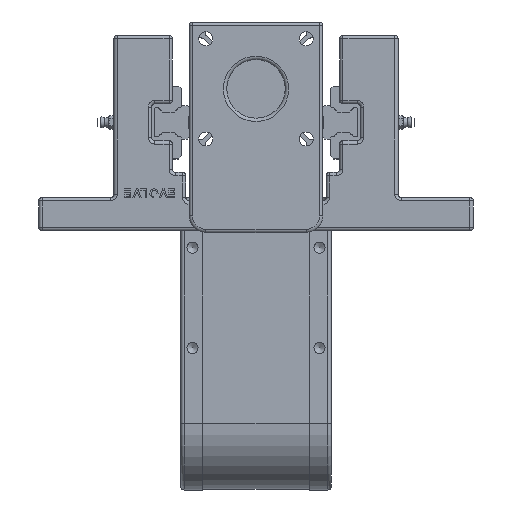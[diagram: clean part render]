
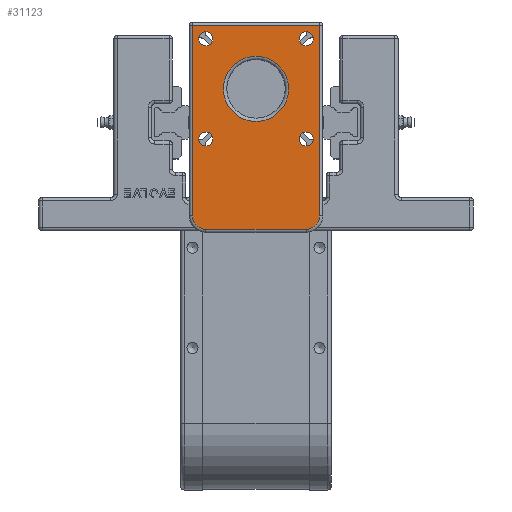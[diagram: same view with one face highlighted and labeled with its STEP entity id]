
A CAD part, front view. The second image highlights one B-rep face of the part: STEP entity #31123.
In plain terms, the highlighted planar face has unit normal (0, -1, 0) as drawn and (0, 0, 1) by its records, which use the part's own axes.
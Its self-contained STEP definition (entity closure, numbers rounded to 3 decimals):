
#279=FACE_BOUND('',#4473,.T.);
#280=FACE_BOUND('',#4474,.T.);
#281=FACE_BOUND('',#4475,.T.);
#282=FACE_BOUND('',#4476,.T.);
#283=FACE_BOUND('',#4477,.T.);
#2559=FACE_OUTER_BOUND('',#4472,.T.);
#4472=EDGE_LOOP('',(#22229,#22230,#22231,#22232,#22233,#22234));
#4473=EDGE_LOOP('',(#22235));
#4474=EDGE_LOOP('',(#22236));
#4475=EDGE_LOOP('',(#22237));
#4476=EDGE_LOOP('',(#22238));
#4477=EDGE_LOOP('',(#22239));
#6827=LINE('',#47196,#9745);
#6828=LINE('',#47198,#9746);
#6829=LINE('',#47200,#9747);
#6830=LINE('',#47203,#9748);
#9745=VECTOR('',#37643,10.);
#9746=VECTOR('',#37644,10.);
#9747=VECTOR('',#37645,10.);
#9748=VECTOR('',#37648,10.);
#12415=CIRCLE('',#33452,19.5);
#12418=CIRCLE('',#33456,8.);
#12419=CIRCLE('',#33457,8.);
#12420=CIRCLE('',#33458,4.188);
#12421=CIRCLE('',#33459,4.188);
#12422=CIRCLE('',#33460,4.188);
#12423=CIRCLE('',#33461,4.188);
#14041=VERTEX_POINT('',#47186);
#14043=VERTEX_POINT('',#47192);
#14044=VERTEX_POINT('',#47193);
#14045=VERTEX_POINT('',#47195);
#14046=VERTEX_POINT('',#47197);
#14047=VERTEX_POINT('',#47199);
#14048=VERTEX_POINT('',#47201);
#14049=VERTEX_POINT('',#47204);
#14050=VERTEX_POINT('',#47206);
#14051=VERTEX_POINT('',#47208);
#14052=VERTEX_POINT('',#47210);
#17153=EDGE_CURVE('',#14041,#14041,#12415,.T.);
#17156=EDGE_CURVE('',#14043,#14044,#12418,.T.);
#17157=EDGE_CURVE('',#14045,#14043,#6827,.T.);
#17158=EDGE_CURVE('',#14046,#14045,#6828,.T.);
#17159=EDGE_CURVE('',#14047,#14046,#6829,.T.);
#17160=EDGE_CURVE('',#14048,#14047,#12419,.T.);
#17161=EDGE_CURVE('',#14044,#14048,#6830,.T.);
#17162=EDGE_CURVE('',#14049,#14049,#12420,.T.);
#17163=EDGE_CURVE('',#14050,#14050,#12421,.T.);
#17164=EDGE_CURVE('',#14051,#14051,#12422,.T.);
#17165=EDGE_CURVE('',#14052,#14052,#12423,.T.);
#22229=ORIENTED_EDGE('',*,*,#17156,.F.);
#22230=ORIENTED_EDGE('',*,*,#17157,.F.);
#22231=ORIENTED_EDGE('',*,*,#17158,.F.);
#22232=ORIENTED_EDGE('',*,*,#17159,.F.);
#22233=ORIENTED_EDGE('',*,*,#17160,.F.);
#22234=ORIENTED_EDGE('',*,*,#17161,.F.);
#22235=ORIENTED_EDGE('',*,*,#17162,.T.);
#22236=ORIENTED_EDGE('',*,*,#17163,.T.);
#22237=ORIENTED_EDGE('',*,*,#17164,.T.);
#22238=ORIENTED_EDGE('',*,*,#17165,.T.);
#22239=ORIENTED_EDGE('',*,*,#17153,.F.);
#29895=PLANE('',#33455);
#31123=ADVANCED_FACE('',(#2559,#279,#280,#281,#282,#283),#29895,.T.);
#33452=AXIS2_PLACEMENT_3D('',#47187,#37633,#37634);
#33455=AXIS2_PLACEMENT_3D('',#47191,#37639,#37640);
#33456=AXIS2_PLACEMENT_3D('',#47194,#37641,#37642);
#33457=AXIS2_PLACEMENT_3D('',#47202,#37646,#37647);
#33458=AXIS2_PLACEMENT_3D('',#47205,#37649,#37650);
#33459=AXIS2_PLACEMENT_3D('',#47207,#37651,#37652);
#33460=AXIS2_PLACEMENT_3D('',#47209,#37653,#37654);
#33461=AXIS2_PLACEMENT_3D('',#47211,#37655,#37656);
#37633=DIRECTION('center_axis',(0.,0.,1.));
#37634=DIRECTION('ref_axis',(-1.,0.,0.));
#37639=DIRECTION('center_axis',(0.,0.,1.));
#37640=DIRECTION('ref_axis',(1.,0.,0.));
#37641=DIRECTION('center_axis',(0.,0.,-1.));
#37642=DIRECTION('ref_axis',(-0.707,0.707,0.));
#37643=DIRECTION('',(0.,1.,0.));
#37644=DIRECTION('',(-1.,0.,0.));
#37645=DIRECTION('',(0.,-1.,0.));
#37646=DIRECTION('center_axis',(0.,0.,-1.));
#37647=DIRECTION('ref_axis',(0.707,0.707,0.));
#37648=DIRECTION('',(1.,0.,0.));
#37649=DIRECTION('center_axis',(0.,0.,-1.));
#37650=DIRECTION('ref_axis',(1.,0.,0.));
#37651=DIRECTION('center_axis',(0.,0.,-1.));
#37652=DIRECTION('ref_axis',(1.,0.,0.));
#37653=DIRECTION('center_axis',(0.,0.,-1.));
#37654=DIRECTION('ref_axis',(1.,0.,0.));
#37655=DIRECTION('center_axis',(0.,0.,-1.));
#37656=DIRECTION('ref_axis',(1.,0.,0.));
#47186=CARTESIAN_POINT('',(19.5,0.,520.));
#47187=CARTESIAN_POINT('Origin',(0.,0.,520.));
#47191=CARTESIAN_POINT('Origin',(0.,23.,520.));
#47192=CARTESIAN_POINT('',(-38.,76.,520.));
#47193=CARTESIAN_POINT('',(-30.,84.,520.));
#47194=CARTESIAN_POINT('Origin',(-30.,76.,520.));
#47195=CARTESIAN_POINT('',(-38.,-38.,520.));
#47196=CARTESIAN_POINT('',(-38.,49.5,520.));
#47197=CARTESIAN_POINT('',(38.,-38.,520.));
#47198=CARTESIAN_POINT('',(-19.,-38.,520.));
#47199=CARTESIAN_POINT('',(38.,76.,520.));
#47200=CARTESIAN_POINT('',(38.,-7.5,520.));
#47201=CARTESIAN_POINT('',(30.,84.,520.));
#47202=CARTESIAN_POINT('Origin',(30.,76.,520.));
#47203=CARTESIAN_POINT('',(15.,84.,520.));
#47204=CARTESIAN_POINT('',(25.812,-30.,520.));
#47205=CARTESIAN_POINT('Origin',(30.,-30.,520.));
#47206=CARTESIAN_POINT('',(-34.188,30.,520.));
#47207=CARTESIAN_POINT('Origin',(-30.,30.,520.));
#47208=CARTESIAN_POINT('',(-34.188,-30.,520.));
#47209=CARTESIAN_POINT('Origin',(-30.,-30.,520.));
#47210=CARTESIAN_POINT('',(25.812,30.,520.));
#47211=CARTESIAN_POINT('Origin',(30.,30.,520.));
